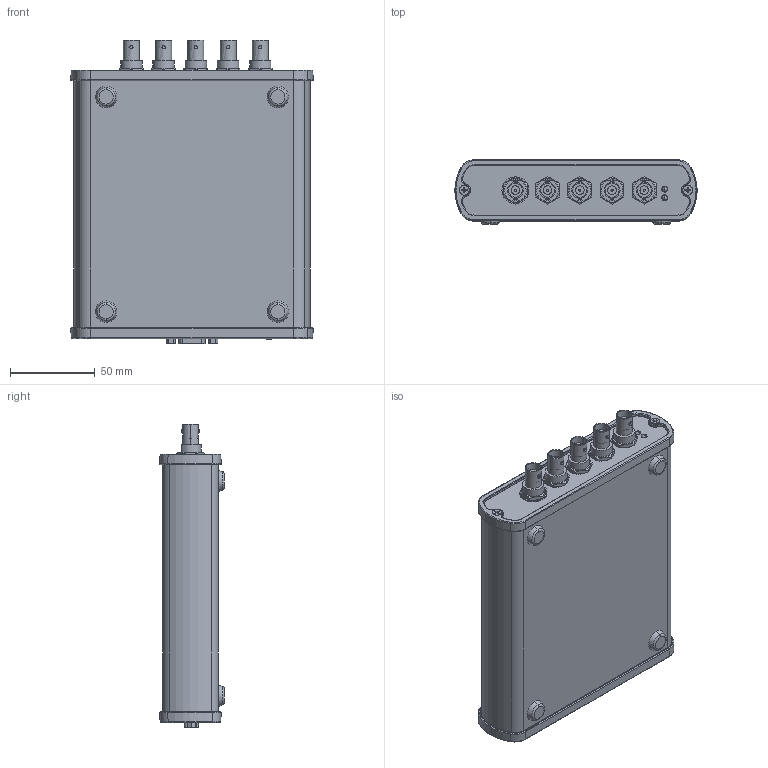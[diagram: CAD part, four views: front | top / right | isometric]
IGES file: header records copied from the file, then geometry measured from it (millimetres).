
Start section:  PTC IGES file: cu_usb-4431_4432.igs
Global section: file name: cu_usb-4431_4432.igs; native system: Pro/ENGINEER by Parametric Technology Corporation; preprocessor: 2011490; author: dkendric; organization: Unknown; date: 20121128.102635; units: inch
Bounding box: 143.21 x 38 x 179.32 mm (x, y, z)
Surface area: 146122.7 mm2 (no closed solid volume)
Topology: 0 solids, 0 shells, 1237 faces, 6116 edges, 6003 vertices
Faces by surface type: revolution 638, bspline 599
